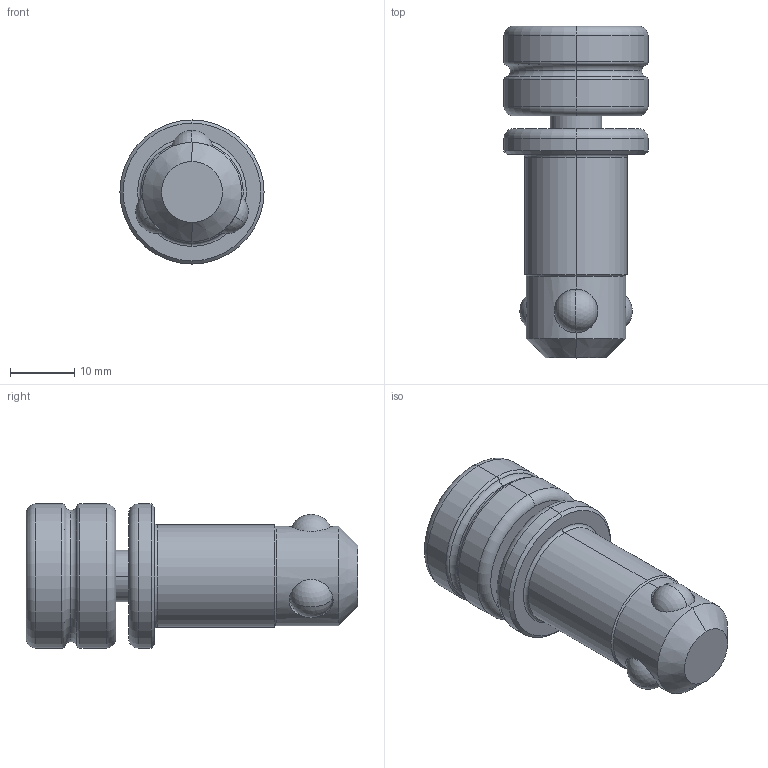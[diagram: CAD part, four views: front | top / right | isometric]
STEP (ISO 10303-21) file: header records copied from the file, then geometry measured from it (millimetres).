
FILE_DESCRIPTION (( 'STEP AP203' ), '1' );
FILE_NAME ('160511.STEP', '2020-07-09T07:54:51', ( '' ), ( '' ), 'SwSTEP 2.0', 'SolidWorks 2019', '' );
FILE_SCHEMA (( 'CONFIG_CONTROL_DESIGN' ));
Length unit declared in the file: millimetre
Products named in the file (6): 160510.1 Gewindespindel kurz; Kugel 6,747; Kopf^160510.1 Gewindespindel kurz; Koerper^160511 Schnellspannbolzen ohne Nut zweifach; 160511; DIN 915 - M8 x 35_DIN 915 - M8 x 35-N
Assembly tree (7 placements, depth 3):
  160511
    Koerper^160511 Schnellspannbolzen ohne Nut zweifach
    160510.1 Gewindespindel kurz
      Kopf^160510.1 Gewindespindel kurz
      DIN 915 - M8 x 35_DIN 915 - M8 x 35-N
    Kugel 6,747  x3
Bounding box: 22.5 x 51.8 x 22.5 mm (x, y, z)
Volume: 13640.2 mm3; surface area: 6101.9 mm2
Topology: 6 solids, 6 shells, 74 faces, 166 edges, 98 vertices
Faces by surface type: cylinder 22, torus 18, cone 14, plane 14, sphere 6
Entity records: 2747 total; most frequent: CARTESIAN_POINT 525, DIRECTION 373, ORIENTED_EDGE 294, AXIS2_PLACEMENT_3D 159, EDGE_CURVE 147, VERTEX_POINT 85, CIRCLE 78, EDGE_LOOP 76
